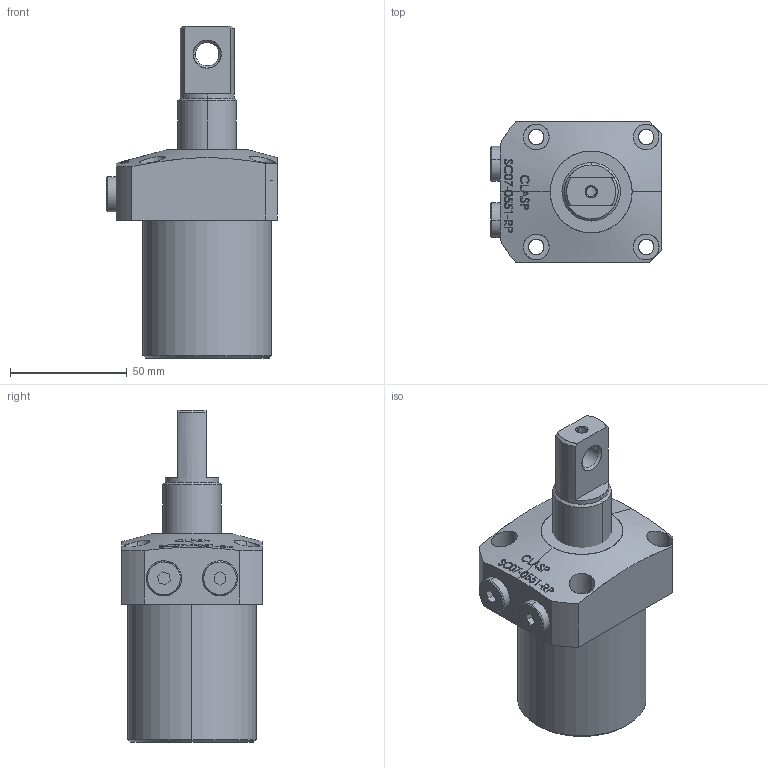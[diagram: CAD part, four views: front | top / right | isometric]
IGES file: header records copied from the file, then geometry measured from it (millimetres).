
Start section: SolidWorks IGES file using analytic representation for surfaces
Global section: file name: D:\karuppas\Clasp\3D model\SWING CYLINDER\Top Mounting swing cylinder-P type\SC07-0551-RP\SC07-0551-RP.IGS; native system: SolidWorks 2017; preprocessor: SolidWorks 2017; author: pc; date: 220708.222446; units: millimetre
Bounding box: 73 x 60 x 142 mm (x, y, z)
Surface area: 37052.1 mm2 (no closed solid volume)
Topology: 0 solids, 0 shells, 327 faces, 5683 edges, 5683 vertices
Faces by surface type: bspline 246, revolution 81
